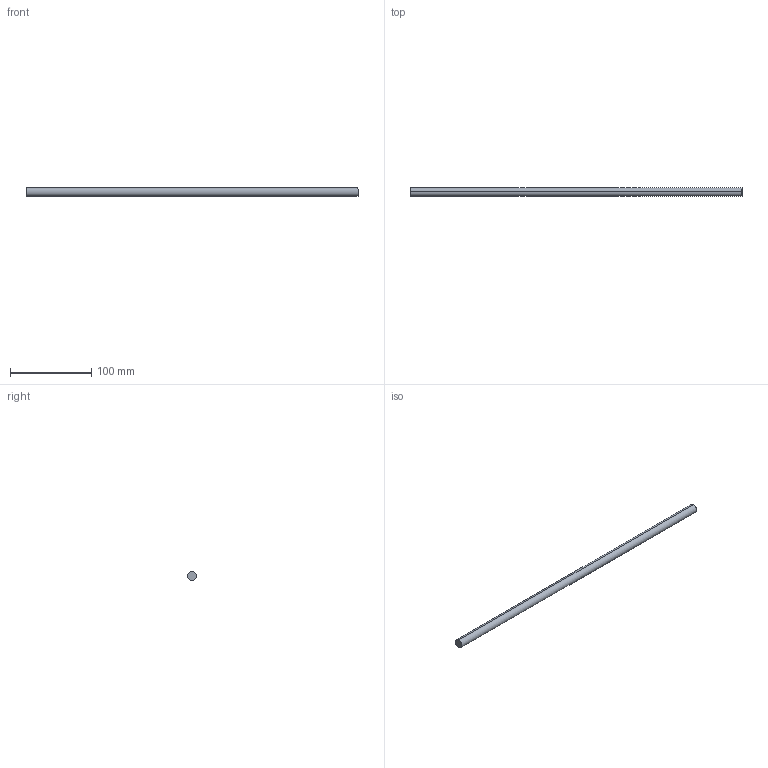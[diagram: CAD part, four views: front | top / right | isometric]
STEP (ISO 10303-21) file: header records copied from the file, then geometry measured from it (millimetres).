
FILE_DESCRIPTION (( 'STEP AP214' ), '1' );
FILE_NAME ('Querreling_Frontblende_Innenlade_KS19_KAB-500.step', '2010-09-22T15:05:33', ( 'grass' ), ( '' ), 'SwSTEP 2.0', 'SolidWorks 2010', '' );
FILE_SCHEMA (( 'AUTOMOTIVE_DESIGN' ));
Length unit declared in the file: millimetre
Products named in the file (1): Querreling_Frontblende_Innenlade_KS19_KAB-500
Bounding box: 409 x 11 x 11 mm (x, y, z)
Volume: 38868.6 mm3; surface area: 14324.1 mm2
Topology: 1 solids, 1 shells, 4 faces, 6 edges, 4 vertices
Faces by surface type: cylinder 2, plane 2
Entity records: 128 total; most frequent: DIRECTION 20, CARTESIAN_POINT 15, ORIENTED_EDGE 12, AXIS2_PLACEMENT_3D 9, EDGE_CURVE 6, CIRCLE 4, FACE_OUTER_BOUND 4, VERTEX_POINT 4
